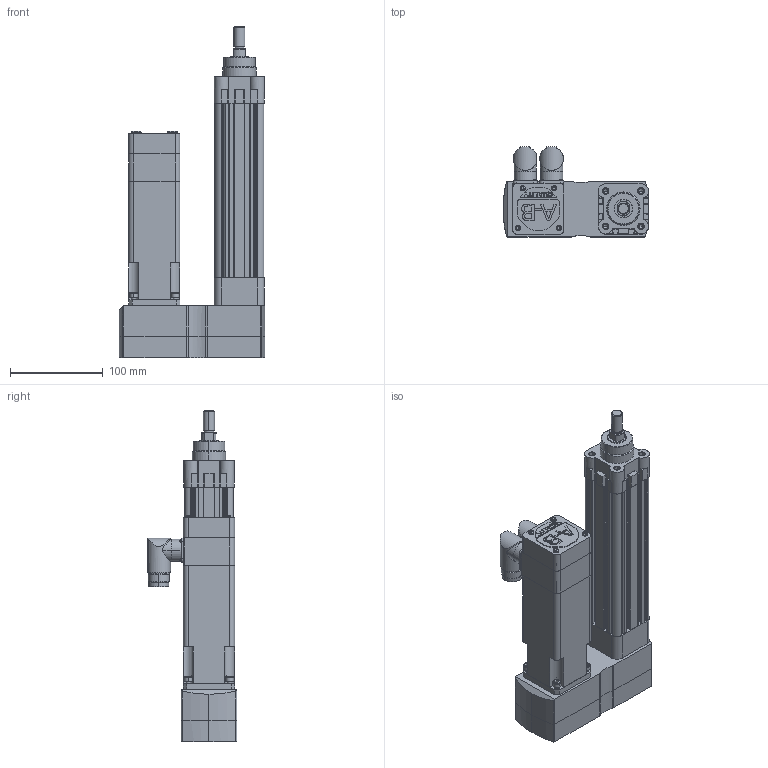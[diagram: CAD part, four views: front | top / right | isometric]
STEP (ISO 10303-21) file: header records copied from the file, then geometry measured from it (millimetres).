
FILE_DESCRIPTION (( 'STEP AP214' ), '1' );
FILE_NAME ('Rockwell Automation-$PARTNUMBER.STEP', '2014-11-27T18:40:39', ( 'Windows User' ), ( '' ), 'SwSTEP 2.0', 'SolidWorks 2015', '' );
FILE_SCHEMA (( 'AUTOMOTIVE_DESIGN' ));
Length unit declared in the file: millimetre
Products named in the file (16): Rockwell Automation-$PARTNUMBER; Rockwell Automation-$PARTNUMBER_Rockwell Automation-MPAR-X2100C-V4D_MPL-x1530F-V-X208_MPL-x1530x-xJ44AA; Rockwell Automation-$PARTNUMBER_Rockwell Automation-MPAR-X2100C-V4D_MPL-x1530x-xJ44AA_MPL-15xx-Feedback Connector; Rockwell Automation-$PARTNUMBER_Rockwell Automation-MPAR-X2100C-V4D_MPL-x1530x-xJ44AA_MPL-15xx-Power Connector; Rockwell Automation-$PARTNUMBER_Rockwell Automation-MPAR-X2100C-V4D_MPL-x1530x-xJ44AA_MPL-15xx-Shaft-Key_1530-SHAFT-KEYED-BRAKE; Rockwell Automation-$PARTNUMBER_Rockwell Automation-MPAR-X2100C-V4D_MPL-x1530x-xJ44AA_MPL-15xx-Body_1530-BRAKE; Rockwell Automation-$PARTNUMBER_Rockwell Automation-MPAR-X2100C-V4D_627501; Rockwell Automation-$PARTNUMBER_Rockwell Automation-MPAR-X2100C-V4D_627501_1210438_ST_ASM; Rockwell Automation-$PARTNUMBER_Rockwell Automation-MPAR-X2100C-V4D_627501_1210166; Rockwell Automation-$PARTNUMBER_Rockwell Automation-MPAR-X2100C-V4D_627501_1210200; Rockwell Automation-$PARTNUMBER_Rockwell Automation-MPAR-X2100C-V4D_627501_200048_3; Rockwell Automation-$PARTNUMBER_Rockwell Automation-MPAR-X2100C-V4D_627501_200671_3; Rockwell Automation-$PARTNUMBER_Rockwell Automation-MPAR-X2100C-V4D_627501_PRT0001; Rockwell Automation-$PARTNUMBER_Rockwell Automation-MPAR-X2100C-V4D_MPAR-x2100x; Rockwell Automation-$PARTNUMBER_Rockwell Automation-MPAR-X2100C-V4D_2-543131; Rockwell Automation-$PARTNUMBER_Rockwell Automation-MPAR-X2100C-V4D_1-543131
Assembly tree (25 placements, depth 4):
  Rockwell Automation-$PARTNUMBER
    Rockwell Automation-$PARTNUMBER_Rockwell Automation-MPAR-X2100C-V4D_MPAR-x2100x
      Rockwell Automation-$PARTNUMBER_Rockwell Automation-MPAR-X2100C-V4D_1-543131
      Rockwell Automation-$PARTNUMBER_Rockwell Automation-MPAR-X2100C-V4D_2-543131
    Rockwell Automation-$PARTNUMBER_Rockwell Automation-MPAR-X2100C-V4D_627501
      Rockwell Automation-$PARTNUMBER_Rockwell Automation-MPAR-X2100C-V4D_627501_1210438_ST_ASM
        Rockwell Automation-$PARTNUMBER_Rockwell Automation-MPAR-X2100C-V4D_627501_PRT0001  x4
        Rockwell Automation-$PARTNUMBER_Rockwell Automation-MPAR-X2100C-V4D_627501_200671_3  x4
        Rockwell Automation-$PARTNUMBER_Rockwell Automation-MPAR-X2100C-V4D_627501_200048_3  x5
        Rockwell Automation-$PARTNUMBER_Rockwell Automation-MPAR-X2100C-V4D_627501_1210200
        Rockwell Automation-$PARTNUMBER_Rockwell Automation-MPAR-X2100C-V4D_627501_1210166
    Rockwell Automation-$PARTNUMBER_Rockwell Automation-MPAR-X2100C-V4D_MPL-x1530F-V-X208_MPL-x1530x-xJ44AA
      Rockwell Automation-$PARTNUMBER_Rockwell Automation-MPAR-X2100C-V4D_MPL-x1530x-xJ44AA_MPL-15xx-Body_1530-BRAKE
      Rockwell Automation-$PARTNUMBER_Rockwell Automation-MPAR-X2100C-V4D_MPL-x1530x-xJ44AA_MPL-15xx-Shaft-Key_1530-SHAFT-KEYED-BRAKE
      Rockwell Automation-$PARTNUMBER_Rockwell Automation-MPAR-X2100C-V4D_MPL-x1530x-xJ44AA_MPL-15xx-Power Connector
      Rockwell Automation-$PARTNUMBER_Rockwell Automation-MPAR-X2100C-V4D_MPL-x1530x-xJ44AA_MPL-15xx-Feedback Connector
Bounding box: 157 x 96.6 x 356.5 mm (x, y, z)
Volume: 1272090.3 mm3; surface area: 313172.2 mm2
Topology: 25 solids, 25 shells, 1641 faces, 4038 edges, 2562 vertices
Faces by surface type: plane 657, cylinder 570, cone 252, bspline 114, torus 48
Entity records: 46515 total; most frequent: CARTESIAN_POINT 12792, DIRECTION 7003, ORIENTED_EDGE 6692, EDGE_CURVE 3346, AXIS2_PLACEMENT_3D 2618, VERTEX_POINT 2142, LINE 1767, VECTOR 1767
